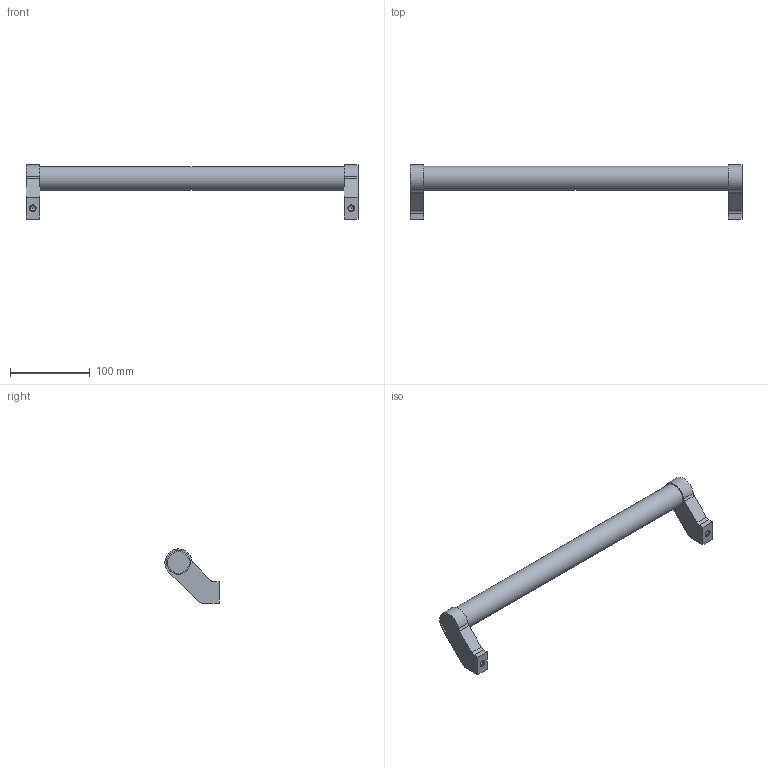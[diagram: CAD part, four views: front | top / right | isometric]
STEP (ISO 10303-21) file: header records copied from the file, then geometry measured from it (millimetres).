
FILE_DESCRIPTION( ( 'STEP AP203' ), '1' );
FILE_NAME( 'C:/Temp/Ganter_Step_05_03_2020/data/1_2/gn333/Tubular handle GN 333-30-400-A-ES.stp', '2020-03-05T10:16:23', ( 'License CC BY-ND 4.0' ), ( 'CADENAS' ), ' ', 'PARTsolutions', ' ' );
FILE_SCHEMA( ( 'CONFIG_CONTROL_DESIGN' ) );
Length unit declared in the file: millimetre
Products named in the file (1): _Tubular handle GN 333-30-400-A-ES
Bounding box: 417 x 67.96 x 67.99 mm (x, y, z)
Volume: 352291.4 mm3; surface area: 53038 mm2
Topology: 1 solids, 1 shells, 47 faces, 108 edges, 69 vertices
Faces by surface type: plane 26, cylinder 15, cone 4, torus 2
Full cylindrical faces by diameter (mm): 6.647 x2, 8.5 x2, 30 x3
Entity records: 1326 total; most frequent: CARTESIAN_POINT 270, DIRECTION 216, ORIENTED_EDGE 184, EDGE_CURVE 92, AXIS2_PLACEMENT_3D 84, VERTEX_POINT 66, EDGE_LOOP 64, FACE_OUTER_BOUND 54
